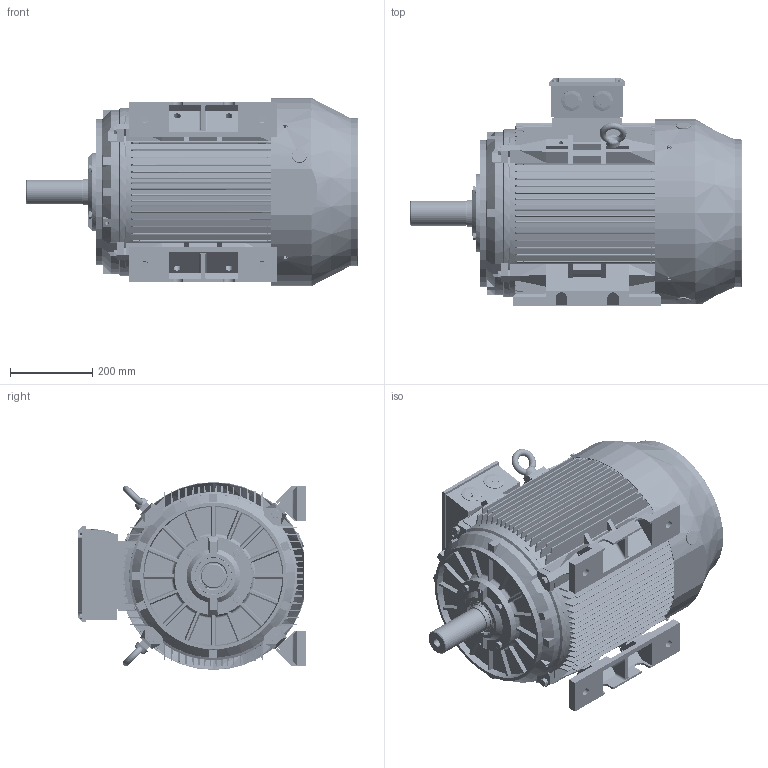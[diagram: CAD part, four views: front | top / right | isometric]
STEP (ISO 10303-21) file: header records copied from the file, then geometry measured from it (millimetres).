
FILE_DESCRIPTION (( 'STEP AP203' ), '1' );
FILE_NAME ('TC 225S B3外形图.STEP', '2013-06-25T07:37:48', ( '微软用户' ), ( '微软中国' ), 'SwSTEP 2.0', 'SolidWorks 2008', '' );
FILE_SCHEMA (( 'CONFIG_CONTROL_DESIGN' ));
Length unit declared in the file: millimetre
Products named in the file (28): TC 225 轴承外盖NDE_默认; TC 225S转子_默认; 油封65-90-10_默认; TC 225 轴承外盖DE_默认; 螺塞M40_默认; M6-20_默认; 铜油嘴_默认; M6-10_默认; M12-45_默认; 吊环M16_默认; TC 225S B3俋倛芞; TC225S B5机座_默认; TC225S 底脚_默认; TC 225 B3 端盖(后）_默认; TC 225S-4.6.8 轴_默认; 6313_默认; TC 225 B3 端盖_默认; TC 225 轴承内盖_默认; TC 225-4P 风叶_默认; TC 200-225接线盒_默认; TC 200-225接线盒座_默认; TC 200-225接线盒盖_默认; 扣塞_默认; M10-70_默认; 10_默认; 12_默认; 平键18-110_默认; TC 225风罩_默认
Assembly tree (53 placements, depth 3):
  TC 225S B3俋倛芞
    M6-10_默认  x4
    吊环M16_默认  x2
    TC 225 B3 端盖(后）_默认
    TC 225 轴承外盖NDE_默认
    10_默认  x4
    M12-45_默认  x4
    TC 225风罩_默认
    M10-70_默认  x4
    平键18-110_默认
    TC 225 B3 端盖_默认
    TC 225 轴承外盖DE_默认
    TC 200-225接线盒_默认
      M6-20_默认  x4
      TC 200-225接线盒座_默认
      TC 200-225接线盒盖_默认
      螺塞M40_默认  x2
    TC225S 底脚_默认  x2
    TC 225 轴承内盖_默认  x2
    铜油嘴_默认  x2
    扣塞_默认  x2
    12_默认  x4
    TC225S B5机座_默认
    TC 225S转子_默认
      6313_默认  x2
      TC 225S-4.6.8 轴_默认
    TC 225-4P 风叶_默认
    油封65-90-10_默认  x2
Bounding box: 809.52 x 553.97 x 458.4 mm (x, y, z)
Volume: 20749503.4 mm3; surface area: 5072927.6 mm2
Topology: 53 solids, 54 shells, 8079 faces, 23334 edges, 15362 vertices
Faces by surface type: plane 4026, cylinder 3111, cone 422, torus 334, bspline 122, sphere 64
Entity records: 258215 total; most frequent: CARTESIAN_POINT 61610, ORIENTED_EDGE 41278, DIRECTION 39580, EDGE_CURVE 20639, AXIS2_PLACEMENT_3D 13713, VERTEX_POINT 13638, VECTOR 12154, LINE 12154
